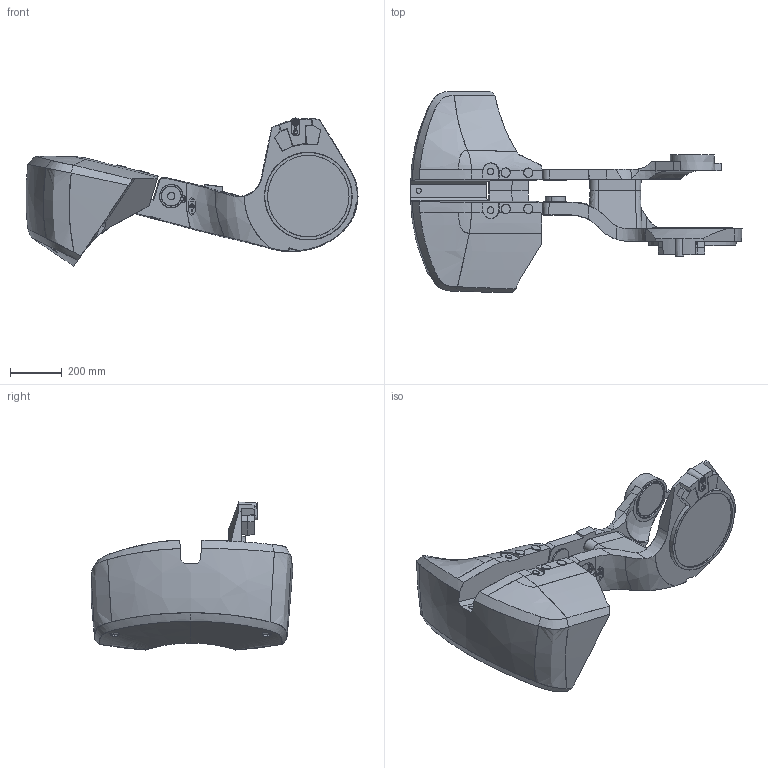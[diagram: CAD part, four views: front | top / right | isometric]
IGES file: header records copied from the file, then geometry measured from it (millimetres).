
Start section: SolidWorks IGES file using analytic representation for surfaces
Global section: file name: B:\DM\Robotics\SEROP_PROJ\Product Development\DevelopmentProjects\Manipulator_Modularity\04. Product Design\06. CAD\Amanda\7720 Lightweight models\IRB7720_450kg-350_OC_00_SW_J\IRB7720_All_OC_00_LINKARM_CAD.IGS; native system: SolidWorks 2022; preprocessor: SolidWorks 2022; author: SEAMSTO1; date: 240119.084944; units: millimetre
Bounding box: 1283.8 x 778.95 x 572.64 mm (x, y, z)
Surface area: 2421814.7 mm2 (no closed solid volume)
Topology: 0 solids, 0 shells, 542 faces, 11112 edges, 11108 vertices
Faces by surface type: bspline 335, revolution 207
